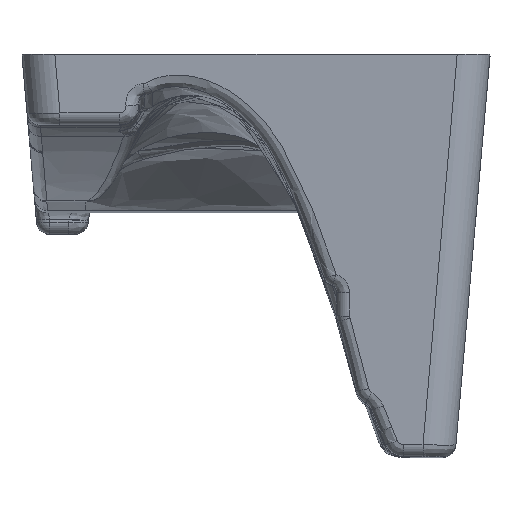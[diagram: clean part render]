
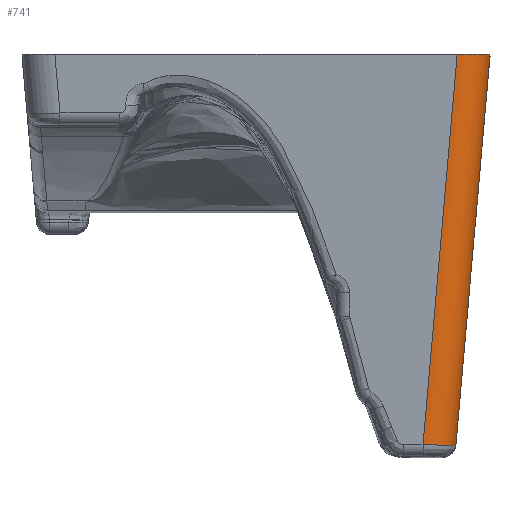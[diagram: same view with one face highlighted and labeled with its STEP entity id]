
A CAD part, top view. The second image highlights one B-rep face of the part: STEP entity #741.
In plain terms, the highlighted cylindrical face has radius 5 mm (diameter 10 mm), a partial arc.
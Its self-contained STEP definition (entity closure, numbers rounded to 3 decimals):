
#77=CYLINDRICAL_SURFACE('',#4033,5.);
#312=ELLIPSE('',#3856,5.038,5.);
#352=ELLIPSE('',#4032,5.014,5.);
#370=LINE('',#6418,#472);
#390=LINE('',#6760,#492);
#472=VECTOR('',#4153,1.);
#492=VECTOR('',#4189,1.);
#741=ADVANCED_FACE('',(#1128),#77,.T.);
#1128=FACE_OUTER_BOUND('',#1376,.T.);
#1376=EDGE_LOOP('',(#2322,#2323,#2324,#2325));
#2322=ORIENTED_EDGE('',*,*,#3018,.F.);
#2323=ORIENTED_EDGE('',*,*,#3478,.T.);
#2324=ORIENTED_EDGE('',*,*,#3062,.F.);
#2325=ORIENTED_EDGE('',*,*,#3119,.F.);
#2677=VERTEX_POINT('',#6417);
#2678=VERTEX_POINT('',#6419);
#2721=VERTEX_POINT('',#6759);
#2722=VERTEX_POINT('',#6761);
#3018=EDGE_CURVE('',#2677,#2678,#370,.T.);
#3062=EDGE_CURVE('',#2721,#2722,#390,.T.);
#3119=EDGE_CURVE('',#2678,#2721,#312,.T.);
#3478=EDGE_CURVE('',#2677,#2722,#352,.T.);
#3856=AXIS2_PLACEMENT_3D('',#10289,#4208,#4209);
#4032=AXIS2_PLACEMENT_3D('',#16475,#4633,#4634);
#4033=AXIS2_PLACEMENT_3D('',#16476,#4635,#4636);
#4153=DIRECTION('',(0.087,0.992,0.087));
#4189=DIRECTION('',(-0.087,-0.992,-0.087));
#4208=DIRECTION('',(0.,1.,0.));
#4209=DIRECTION('',(0.707,0.,0.707));
#4633=DIRECTION('',(0.035,0.999,0.035));
#4634=DIRECTION('',(0.706,-0.049,0.706));
#4635=DIRECTION('',(0.087,0.992,0.087));
#4636=DIRECTION('',(0.,-0.087,0.996));
#6417=CARTESIAN_POINT('',(428.179,-33.642,571.634));
#6418=CARTESIAN_POINT('',(433.743,29.961,577.198));
#6419=CARTESIAN_POINT('',(433.356,25.532,576.811));
#6759=CARTESIAN_POINT('',(438.337,25.532,571.83));
#6760=CARTESIAN_POINT('',(433.038,-35.039,566.531));
#6761=CARTESIAN_POINT('',(433.16,-33.642,566.653));
#10289=CARTESIAN_POINT('',(433.318,25.532,571.792));
#16475=CARTESIAN_POINT('',(428.156,-33.468,566.63));
#16476=CARTESIAN_POINT('',(428.109,-34.,566.583));
